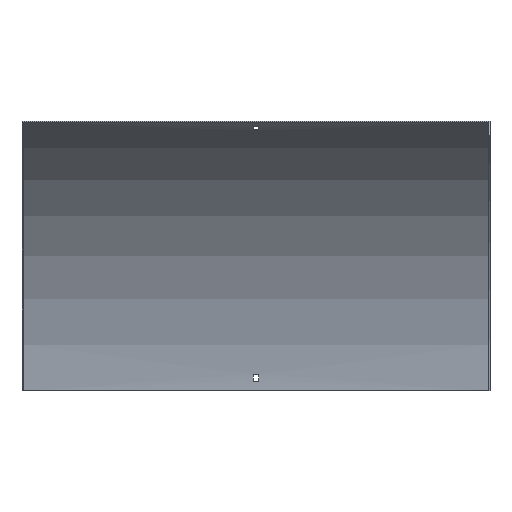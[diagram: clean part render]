
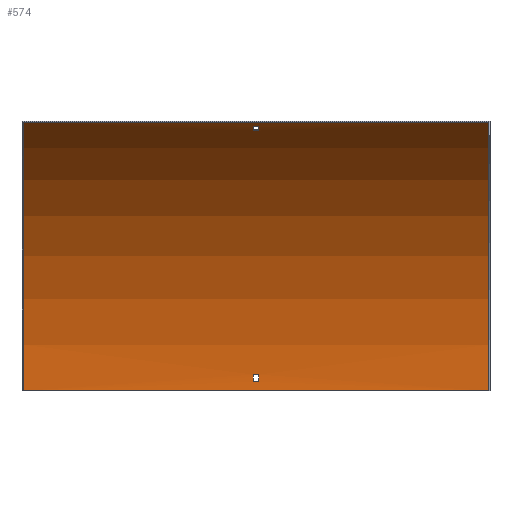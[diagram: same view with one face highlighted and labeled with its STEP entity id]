
A CAD part, front view. The second image highlights one B-rep face of the part: STEP entity #574.
In plain terms, the highlighted cylindrical face has radius 400 mm (diameter 800 mm), a partial arc.
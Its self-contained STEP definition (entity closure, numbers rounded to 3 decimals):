
#2 = CARTESIAN_POINT ( 'NONE',  ( 300., -1.5, 0. ) ) ;
#9 = DIRECTION ( 'NONE',  ( 0., 0., 1. ) ) ;
#10 = CIRCLE ( 'NONE', #119, 400. ) ;
#12 = LINE ( 'NONE', #572, #50 ) ;
#13 = CARTESIAN_POINT ( 'NONE',  ( 3.25, -191.198, 340.254 ) ) ;
#14 = DIRECTION ( 'NONE',  ( -1., 0., 0. ) ) ;
#18 = ORIENTED_EDGE ( 'NONE', *, *, #123, .F. ) ;
#19 = DIRECTION ( 'NONE',  ( 0., 0., -1. ) ) ;
#20 = FACE_BOUND ( 'NONE', #366, .T. ) ;
#30 = AXIS2_PLACEMENT_3D ( 'NONE', #53, #158, #64 ) ;
#32 = CARTESIAN_POINT ( 'NONE',  ( -3.25, -183.589, 335.432 ) ) ;
#36 = VERTEX_POINT ( 'NONE', #32 ) ;
#42 = EDGE_CURVE ( 'NONE', #36, #541, #161, .T. ) ;
#50 = VECTOR ( 'NONE', #512, 1000. ) ;
#53 = CARTESIAN_POINT ( 'NONE',  ( -3.25, -401.5, 0. ) ) ;
#60 = DIRECTION ( 'NONE',  ( 0., 0., -1. ) ) ;
#62 = CARTESIAN_POINT ( 'NONE',  ( 301.5, -401.5, 0. ) ) ;
#64 = DIRECTION ( 'NONE',  ( 0., 0., 1. ) ) ;
#77 = VERTEX_POINT ( 'NONE', #177 ) ;
#81 = DIRECTION ( 'NONE',  ( 1., 0., 0. ) ) ;
#93 = EDGE_CURVE ( 'NONE', #353, #228, #12, .T. ) ;
#98 = EDGE_CURVE ( 'NONE', #391, #77, #430, .T. ) ;
#105 = ORIENTED_EDGE ( 'NONE', *, *, #42, .T. ) ;
#108 = EDGE_LOOP ( 'NONE', ( #131, #105, #602, #115 ) ) ;
#115 = ORIENTED_EDGE ( 'NONE', *, *, #204, .T. ) ;
#116 = EDGE_LOOP ( 'NONE', ( #384, #601, #416, #327 ) ) ;
#119 = AXIS2_PLACEMENT_3D ( 'NONE', #326, #297, #19 ) ;
#123 = EDGE_CURVE ( 'NONE', #228, #128, #10, .T. ) ;
#126 = LINE ( 'NONE', #364, #225 ) ;
#128 = VERTEX_POINT ( 'NONE', #385 ) ;
#130 = CARTESIAN_POINT ( 'NONE',  ( -300., -401.5, 0. ) ) ;
#131 = ORIENTED_EDGE ( 'NONE', *, *, #344, .T. ) ;
#133 = DIRECTION ( 'NONE',  ( 1., 0., 0. ) ) ;
#152 = EDGE_CURVE ( 'NONE', #183, #353, #478, .T. ) ;
#154 = VECTOR ( 'NONE', #507, 1000. ) ;
#158 = DIRECTION ( 'NONE',  ( -1., 0., 0. ) ) ;
#161 = CIRCLE ( 'NONE', #516, 400. ) ;
#171 = CARTESIAN_POINT ( 'NONE',  ( 300., -201.5, 346.41 ) ) ;
#177 = CARTESIAN_POINT ( 'NONE',  ( -300., -201.5, 346.41 ) ) ;
#183 = VERTEX_POINT ( 'NONE', #342 ) ;
#191 = DIRECTION ( 'NONE',  ( -1., 0., 0. ) ) ;
#204 = EDGE_CURVE ( 'NONE', #306, #309, #427, .T. ) ;
#207 = CARTESIAN_POINT ( 'NONE',  ( -3.25, -191.198, 340.254 ) ) ;
#225 = VECTOR ( 'NONE', #515, 1000. ) ;
#228 = VERTEX_POINT ( 'NONE', #237 ) ;
#229 = VERTEX_POINT ( 'NONE', #607 ) ;
#233 = EDGE_CURVE ( 'NONE', #229, #391, #425, .T. ) ;
#236 = LINE ( 'NONE', #289, #376 ) ;
#237 = CARTESIAN_POINT ( 'NONE',  ( 3.25, -1.68, 12. ) ) ;
#239 = CARTESIAN_POINT ( 'NONE',  ( 3.25, -401.5, 0. ) ) ;
#253 = EDGE_CURVE ( 'NONE', #396, #77, #236, .T. ) ;
#268 = CARTESIAN_POINT ( 'NONE',  ( -3.25, -1.68, 12. ) ) ;
#277 = DIRECTION ( 'NONE',  ( 0., 0., -1. ) ) ;
#289 = CARTESIAN_POINT ( 'NONE',  ( 300., -201.5, 346.41 ) ) ;
#293 = FACE_OUTER_BOUND ( 'NONE', #116, .T. ) ;
#297 = DIRECTION ( 'NONE',  ( 1., 0., 0. ) ) ;
#298 = VECTOR ( 'NONE', #133, 1000. ) ;
#302 = EDGE_CURVE ( 'NONE', #229, #396, #535, .T. ) ;
#306 = VERTEX_POINT ( 'NONE', #13 ) ;
#308 = CYLINDRICAL_SURFACE ( 'NONE', #530, 400. ) ;
#309 = VERTEX_POINT ( 'NONE', #447 ) ;
#320 = CARTESIAN_POINT ( 'NONE',  ( 301.5, -2.052, 21. ) ) ;
#326 = CARTESIAN_POINT ( 'NONE',  ( 3.25, -401.5, 0. ) ) ;
#327 = ORIENTED_EDGE ( 'NONE', *, *, #253, .T. ) ;
#336 = AXIS2_PLACEMENT_3D ( 'NONE', #393, #493, #60 ) ;
#341 = DIRECTION ( 'NONE',  ( -1., 0., 0. ) ) ;
#342 = CARTESIAN_POINT ( 'NONE',  ( -3.25, -2.052, 21. ) ) ;
#344 = EDGE_CURVE ( 'NONE', #309, #36, #126, .T. ) ;
#345 = AXIS2_PLACEMENT_3D ( 'NONE', #239, #521, #9 ) ;
#347 = CARTESIAN_POINT ( 'NONE',  ( -3.25, -401.5, 0. ) ) ;
#352 = DIRECTION ( 'NONE',  ( 0., 0., 1. ) ) ;
#353 = VERTEX_POINT ( 'NONE', #268 ) ;
#354 = EDGE_CURVE ( 'NONE', #128, #183, #550, .T. ) ;
#360 = DIRECTION ( 'NONE',  ( 0., 1., 0. ) ) ;
#363 = ORIENTED_EDGE ( 'NONE', *, *, #152, .F. ) ;
#364 = CARTESIAN_POINT ( 'NONE',  ( 301.5, -183.589, 335.432 ) ) ;
#366 = EDGE_LOOP ( 'NONE', ( #363, #409, #18, #495 ) ) ;
#374 = EDGE_CURVE ( 'NONE', #541, #306, #560, .T. ) ;
#376 = VECTOR ( 'NONE', #341, 1000. ) ;
#384 = ORIENTED_EDGE ( 'NONE', *, *, #98, .F. ) ;
#385 = CARTESIAN_POINT ( 'NONE',  ( 3.25, -2.052, 21. ) ) ;
#391 = VERTEX_POINT ( 'NONE', #593 ) ;
#393 = CARTESIAN_POINT ( 'NONE',  ( 300., -401.5, 0. ) ) ;
#396 = VERTEX_POINT ( 'NONE', #171 ) ;
#409 = ORIENTED_EDGE ( 'NONE', *, *, #354, .F. ) ;
#416 = ORIENTED_EDGE ( 'NONE', *, *, #302, .T. ) ;
#425 = LINE ( 'NONE', #2, #573 ) ;
#427 = CIRCLE ( 'NONE', #345, 400. ) ;
#430 = CIRCLE ( 'NONE', #564, 400. ) ;
#447 = CARTESIAN_POINT ( 'NONE',  ( 3.25, -183.589, 335.432 ) ) ;
#478 = CIRCLE ( 'NONE', #30, 400. ) ;
#493 = DIRECTION ( 'NONE',  ( 1., 0., 0. ) ) ;
#495 = ORIENTED_EDGE ( 'NONE', *, *, #93, .F. ) ;
#503 = CARTESIAN_POINT ( 'NONE',  ( 301.5, -191.198, 340.254 ) ) ;
#507 = DIRECTION ( 'NONE',  ( -1., 0., 0. ) ) ;
#512 = DIRECTION ( 'NONE',  ( 1., 0., 0. ) ) ;
#515 = DIRECTION ( 'NONE',  ( -1., 0., 0. ) ) ;
#516 = AXIS2_PLACEMENT_3D ( 'NONE', #347, #580, #360 ) ;
#521 = DIRECTION ( 'NONE',  ( -1., 0., 0. ) ) ;
#530 = AXIS2_PLACEMENT_3D ( 'NONE', #62, #14, #352 ) ;
#535 = CIRCLE ( 'NONE', #336, 400. ) ;
#541 = VERTEX_POINT ( 'NONE', #207 ) ;
#550 = LINE ( 'NONE', #320, #154 ) ;
#560 = LINE ( 'NONE', #503, #298 ) ;
#564 = AXIS2_PLACEMENT_3D ( 'NONE', #130, #81, #277 ) ;
#572 = CARTESIAN_POINT ( 'NONE',  ( 301.5, -1.68, 12. ) ) ;
#573 = VECTOR ( 'NONE', #191, 1000. ) ;
#574 = ADVANCED_FACE ( 'NONE', ( #20, #293, #587 ), #308, .F. ) ;
#580 = DIRECTION ( 'NONE',  ( 1., 0., 0. ) ) ;
#587 = FACE_BOUND ( 'NONE', #108, .T. ) ;
#593 = CARTESIAN_POINT ( 'NONE',  ( -300., -1.5, 0. ) ) ;
#601 = ORIENTED_EDGE ( 'NONE', *, *, #233, .F. ) ;
#602 = ORIENTED_EDGE ( 'NONE', *, *, #374, .T. ) ;
#607 = CARTESIAN_POINT ( 'NONE',  ( 300., -1.5, 0. ) ) ;
